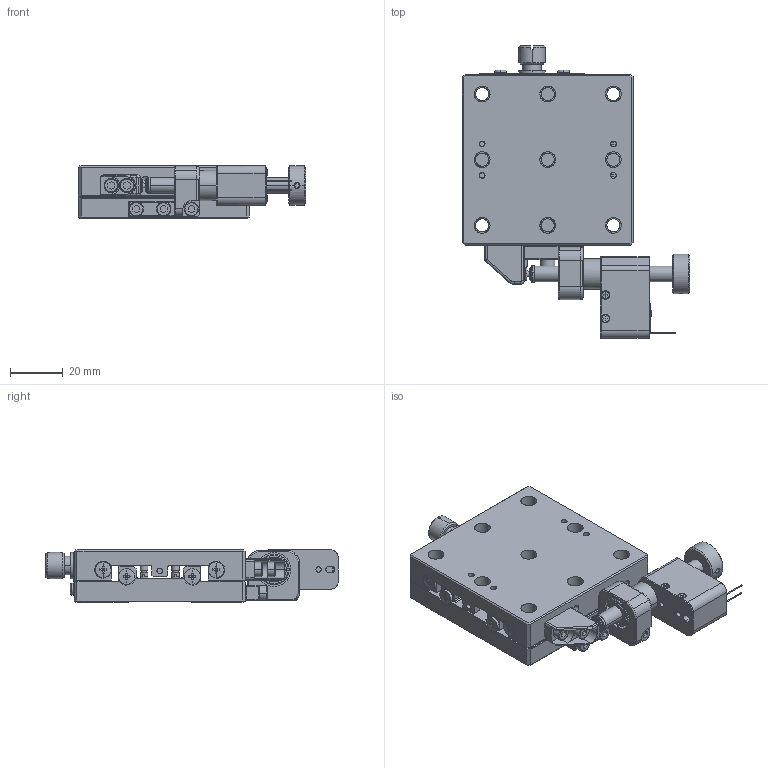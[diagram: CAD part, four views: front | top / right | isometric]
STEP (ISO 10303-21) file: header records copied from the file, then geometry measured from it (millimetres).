
FILE_DESCRIPTION (( 'STEP AP214' ), '1' );
FILE_NAME ('TSDS-651S-M6-PDM.STEP', '2024-06-12T11:33:33', ( '' ), ( '' ), 'SwSTEP 2.0', 'SolidWorks 2023', '' );
FILE_SCHEMA (( 'AUTOMOTIVE_DESIGN' ));
Length unit declared in the file: millimetre
Products named in the file (7): TSDS-651S-M6-PDM; TSDS-651SEE-C1A-S06; VPDM13A-M02-20001-S04; TSDS-651S-M6; VPDM13A-M02-20001-S01; TSDS-651SEE-C1A-S07; VPDM-13ACT
Assembly tree (6 placements, depth 3):
  TSDS-651S-M6-PDM
    TSDS-651S-M6
      TSDS-651SEE-C1A-S06
      TSDS-651SEE-C1A-S07
    VPDM-13ACT
      VPDM13A-M02-20001-S04
      VPDM13A-M02-20001-S01
Bounding box: 86.5 x 111.4 x 20.05 mm (x, y, z)
Volume: 46637.1 mm3; surface area: 39713 mm2
Topology: 11 solids, 34 shells, 1348 faces, 3486 edges, 2232 vertices
Faces by surface type: plane 599, cylinder 425, bspline 151, cone 128, torus 23, sphere 22
Entity records: 49207 total; most frequent: CARTESIAN_POINT 20608, ORIENTED_EDGE 6850, DIRECTION 4277, EDGE_CURVE 3431, VERTEX_POINT 2231, B_SPLINE_CURVE_WITH_KNOTS 2027, AXIS2_PLACEMENT_3D 1761, EDGE_LOOP 1512
